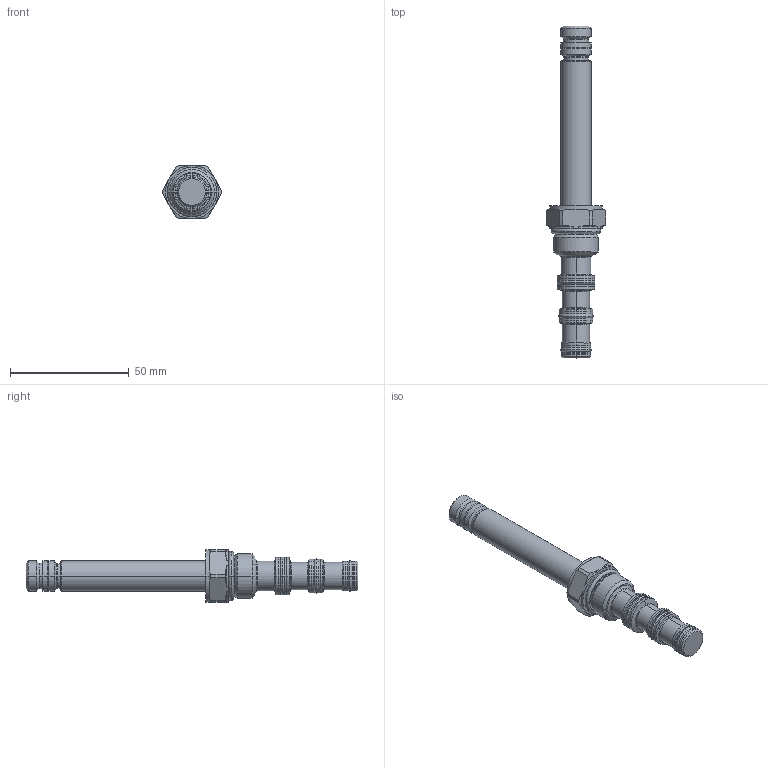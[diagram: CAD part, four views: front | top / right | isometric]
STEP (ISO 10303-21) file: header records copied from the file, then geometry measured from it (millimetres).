
FILE_DESCRIPTION((''),'2;1');
FILE_NAME('5003600_SW0003','2009-02-26T',('JCS'),(''),'PRO/ENGINEER BY PARAMETRIC TECHNOLOGY CORPORATION, 2008010','PRO/ENGINEER BY PARAMETRIC TECHNOLOGY CORPORATION, 2008010','');
FILE_SCHEMA(('CONFIG_CONTROL_DESIGN'));
Length unit declared in the file: inch
Products named in the file (1): 5003600_SW0003
Bounding box: 24.94 x 139.83 x 22.23 mm (x, y, z)
Volume: 22087.8 mm3; surface area: 9137.5 mm2
Topology: 3 solids, 3 shells, 241 faces, 536 edges, 316 vertices
Faces by surface type: cylinder 86, cone 58, torus 38, revolution 32, plane 27
Entity records: 7228 total; most frequent: CARTESIAN_POINT 1707, DIRECTION 1254, ORIENTED_EDGE 1072, EDGE_CURVE 536, AXIS2_PLACEMENT_3D 533, CIRCLE 324, VERTEX_POINT 316, EDGE_LOOP 260
